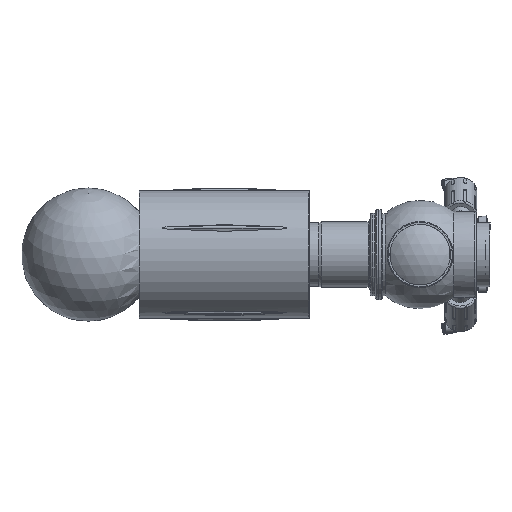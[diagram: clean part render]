
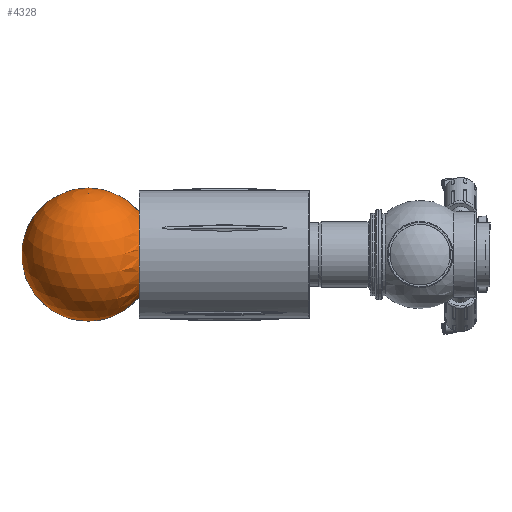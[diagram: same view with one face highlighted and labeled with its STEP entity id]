
A CAD part, left-side view. The second image highlights one B-rep face of the part: STEP entity #4328.
In plain terms, the highlighted spherical face has radius 72.5 mm.
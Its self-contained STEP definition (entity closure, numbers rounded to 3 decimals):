
#156=FACE_BOUND('',#1239,.T.);
#783=SPHERICAL_SURFACE('',#4839,72.5);
#992=FACE_OUTER_BOUND('',#1238,.T.);
#1238=EDGE_LOOP('',(#3229,#3230));
#1239=EDGE_LOOP('',(#3231));
#1536=CIRCLE('',#4840,72.5);
#1537=CIRCLE('',#4841,46.648);
#1877=VERTEX_POINT('',#7306);
#1878=VERTEX_POINT('',#7307);
#1879=VERTEX_POINT('',#7309);
#2396=EDGE_CURVE('',#1877,#1878,#1536,.T.);
#2397=EDGE_CURVE('',#1879,#1879,#1537,.T.);
#3229=ORIENTED_EDGE('',*,*,#2396,.T.);
#3230=ORIENTED_EDGE('',*,*,#2396,.F.);
#3231=ORIENTED_EDGE('',*,*,#2397,.F.);
#4328=ADVANCED_FACE('',(#992,#156),#783,.T.);
#4839=AXIS2_PLACEMENT_3D('',#7305,#5597,#5598);
#4840=AXIS2_PLACEMENT_3D('',#7308,#5599,#5600);
#4841=AXIS2_PLACEMENT_3D('',#7310,#5601,#5602);
#5597=DIRECTION('center_axis',(0.,0.,1.));
#5598=DIRECTION('ref_axis',(1.,0.,0.));
#5599=DIRECTION('center_axis',(0.,-1.,0.));
#5600=DIRECTION('ref_axis',(-1.,0.,0.));
#5601=DIRECTION('center_axis',(0.,-1.,0.));
#5602=DIRECTION('ref_axis',(1.,0.,0.));
#7305=CARTESIAN_POINT('Origin',(150.,266.5,0.));
#7306=CARTESIAN_POINT('',(150.,266.5,72.5));
#7307=CARTESIAN_POINT('',(150.,266.5,-72.5));
#7308=CARTESIAN_POINT('Origin',(150.,266.5,0.));
#7309=CARTESIAN_POINT('',(196.648,211.,0.));
#7310=CARTESIAN_POINT('Origin',(150.,211.,0.));
